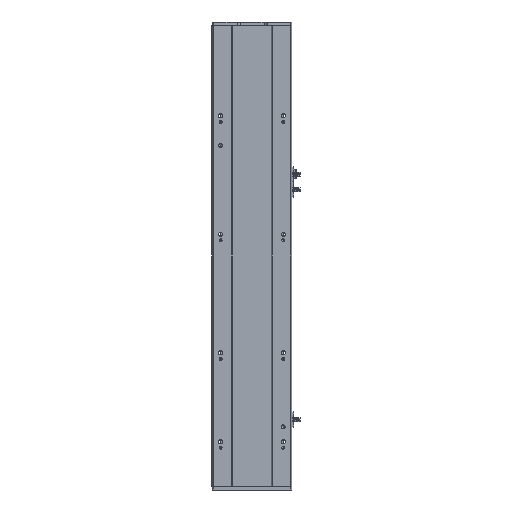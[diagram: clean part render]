
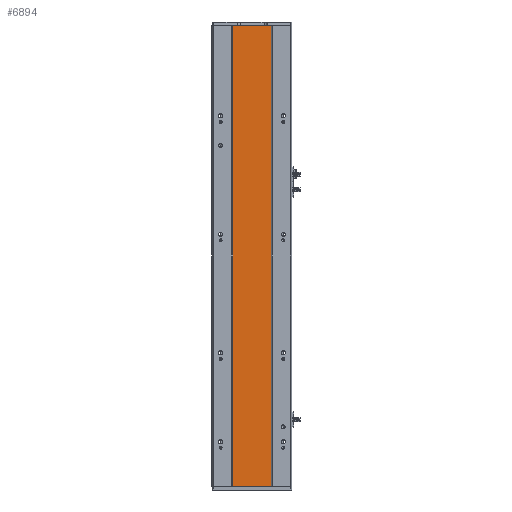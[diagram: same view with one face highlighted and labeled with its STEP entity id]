
A CAD part, front view. The second image highlights one B-rep face of the part: STEP entity #6894.
In plain terms, the highlighted planar face has unit normal (0, -1, 0).
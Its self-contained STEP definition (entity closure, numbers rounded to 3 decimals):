
#424 = AXIS2_PLACEMENT_3D ( 'NONE', #9921, #19084, #16005 ) ;
#471 = ORIENTED_EDGE ( 'NONE', *, *, #913, .F. ) ;
#913 = EDGE_CURVE ( 'NONE', #7065, #12172, #1180, .T. ) ;
#1180 = LINE ( 'NONE', #14713, #3739 ) ;
#3026 = EDGE_CURVE ( 'NONE', #17481, #12172, #12793, .T. ) ;
#3409 = LINE ( 'NONE', #9398, #5043 ) ;
#3739 = VECTOR ( 'NONE', #11747, 1000. ) ;
#3922 = FACE_OUTER_BOUND ( 'NONE', #8135, .T. ) ;
#4574 = CARTESIAN_POINT ( 'NONE',  ( 2995.466, 228.884, 0. ) ) ;
#5043 = VECTOR ( 'NONE', #6633, 1000. ) ;
#5910 = EDGE_CURVE ( 'NONE', #11346, #17481, #3409, .T. ) ;
#6633 = DIRECTION ( 'NONE',  ( 0., 0., -1. ) ) ;
#6881 = ORIENTED_EDGE ( 'NONE', *, *, #5910, .T. ) ;
#6894 = ADVANCED_FACE ( 'NONE', ( #3922 ), #13066, .F. ) ;
#6898 = CARTESIAN_POINT ( 'NONE',  ( 2963.091, 228.884, 0. ) ) ;
#6923 = CARTESIAN_POINT ( 'NONE',  ( 2995.466, 228.884, 778. ) ) ;
#7065 = VERTEX_POINT ( 'NONE', #6923 ) ;
#8135 = EDGE_LOOP ( 'NONE', ( #13074, #471, #18002, #6881 ) ) ;
#8941 = CARTESIAN_POINT ( 'NONE',  ( 2930.715, 228.884, 778. ) ) ;
#9220 = LINE ( 'NONE', #8941, #14256 ) ;
#9398 = CARTESIAN_POINT ( 'NONE',  ( 2930.715, 228.884, 778. ) ) ;
#9921 = CARTESIAN_POINT ( 'NONE',  ( 2963.091, 228.884, 778. ) ) ;
#10018 = EDGE_CURVE ( 'NONE', #11346, #7065, #9220, .T. ) ;
#11346 = VERTEX_POINT ( 'NONE', #14492 ) ;
#11747 = DIRECTION ( 'NONE',  ( 0., 0., -1. ) ) ;
#12172 = VERTEX_POINT ( 'NONE', #4574 ) ;
#12793 = LINE ( 'NONE', #6898, #14184 ) ;
#13066 = PLANE ( 'NONE',  #424 ) ;
#13074 = ORIENTED_EDGE ( 'NONE', *, *, #3026, .T. ) ;
#13849 = CARTESIAN_POINT ( 'NONE',  ( 2930.715, 228.884, 0. ) ) ;
#14184 = VECTOR ( 'NONE', #15736, 1000. ) ;
#14256 = VECTOR ( 'NONE', #16396, 1000. ) ;
#14492 = CARTESIAN_POINT ( 'NONE',  ( 2930.715, 228.884, 778. ) ) ;
#14713 = CARTESIAN_POINT ( 'NONE',  ( 2995.466, 228.884, 778. ) ) ;
#15736 = DIRECTION ( 'NONE',  ( 1., 0., 0. ) ) ;
#16005 = DIRECTION ( 'NONE',  ( 0., 0., 1. ) ) ;
#16396 = DIRECTION ( 'NONE',  ( 1., 0., 0. ) ) ;
#17481 = VERTEX_POINT ( 'NONE', #13849 ) ;
#18002 = ORIENTED_EDGE ( 'NONE', *, *, #10018, .F. ) ;
#19084 = DIRECTION ( 'NONE',  ( 0., 1., 0. ) ) ;
